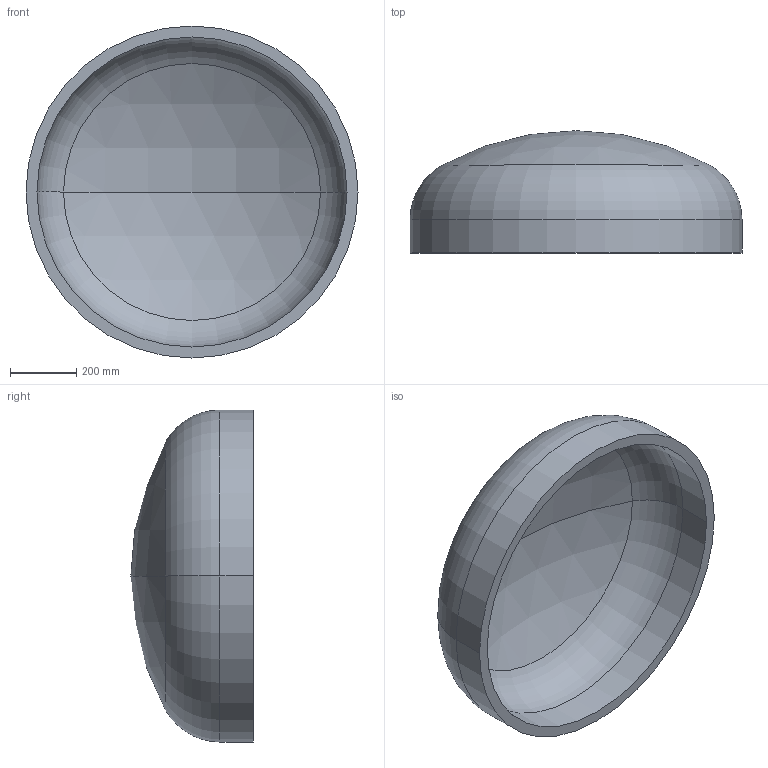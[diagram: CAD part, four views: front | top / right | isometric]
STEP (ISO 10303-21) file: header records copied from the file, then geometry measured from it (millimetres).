
FILE_DESCRIPTION (( 'STEP AP203' ), '1' );
FILE_NAME ('DIN 28013 Korbbogenform_-_Boden DIN 28013 - 1000 x 100 - I - s=33.step', '2016-07-01T08:47:14', ( '' ), ( '' ), 'SwSTEP 2.0', 'SolidWorks 2013', '' );
FILE_SCHEMA (( 'CONFIG_CONTROL_DESIGN' ));
Length unit declared in the file: millimetre
Products named in the file (1): DIN 28013 Korbbogenform_-_Boden DIN 28013 - 1000 x 100 - I - s=33
Bounding box: 1000 x 368.48 x 1000 mm (x, y, z)
Volume: 44455350.1 mm3; surface area: 2796795.1 mm2
Topology: 1 solids, 1 shells, 13 faces, 24 edges, 14 vertices
Faces by surface type: torus 4, cylinder 4, sphere 4, plane 1
Entity records: 407 total; most frequent: DIRECTION 72, CARTESIAN_POINT 52, ORIENTED_EDGE 48, AXIS2_PLACEMENT_3D 34, EDGE_CURVE 24, CIRCLE 20, VERTEX_POINT 14, EDGE_LOOP 14
